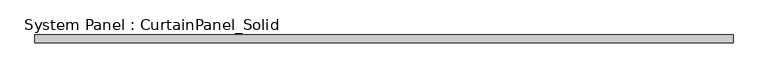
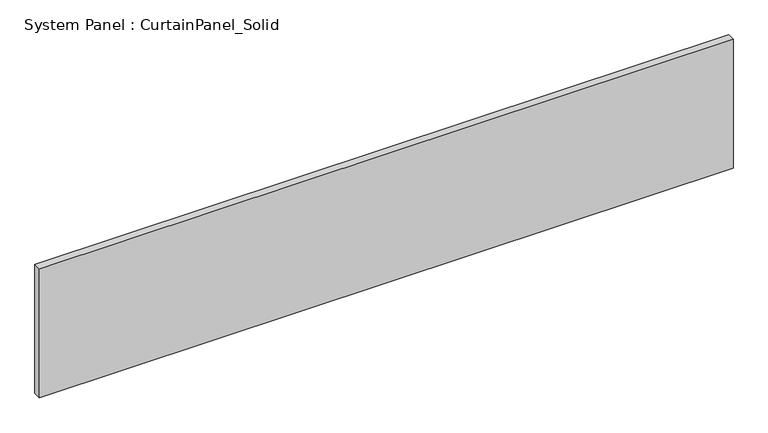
"""IFC4 building model written with IfcOpenShell, lengths in millimetres: plate geometry, System Panel : CurtainPanel_Solid."""

from ifc_helpers import new_model, si_unit, origin, origin_with_axes, place, context, project, spatial, polyline, outline, extrude, source, transform, mapped, element, save


def system_panel_curtainpanel_solid_a1b8920c(model_context):
    return source(origin(), model_context, "Body", "SweptSolid", [
        extrude(outline(polyline([(1113.6000001, -12.5), (-1113.6000001, -12.5), (-1113.6000001, 12.5), (1113.6000001, 12.5), (1113.6000001, -12.5)])), origin_with_axes(), (0.0, 0.0, 1.0), 438.3),
    ])


if __name__ == "__main__":
    model = new_model("IFC4")
    model_context = context("Model", 3, world=origin())
    ifc_project = project(units=[si_unit("LENGTHUNIT", "METRE", prefix="MILLI")], contexts=[model_context])
    site = spatial("IfcSite", under=ifc_project)
    building = spatial("IfcBuilding", under=site)
    placement = place(None, origin())
    system_panel_curtainpanel_solid_shape = system_panel_curtainpanel_solid_a1b8920c(model_context)
    element("IfcPlate", 1, ObjectType="System Panel : CurtainPanel_Solid", at=placement, inside=building, context=model_context, shape_type="MappedRepresentation", body=[
        mapped(system_panel_curtainpanel_solid_shape, transform((0.0, 0.0, 0.0), x_axis=(1.0, 0.0, 0.0), y_axis=(0.0, 1.0, 0.0), z_axis=(0.0, 0.0, 1.0))),
    ])
    save(model, "model.ifc")
